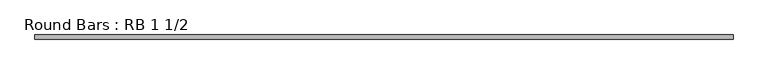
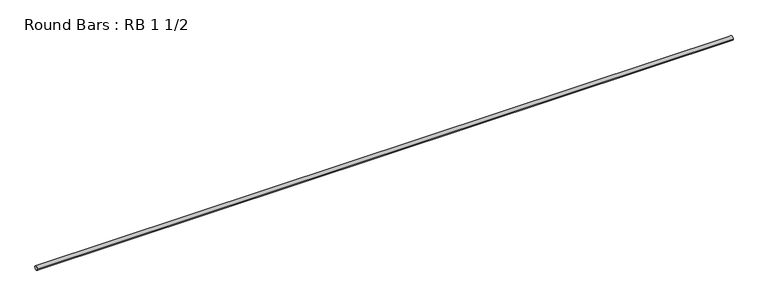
"""IFC4 building model written with IfcOpenShell, lengths in millimetres: member geometry, Round Bars : RB 1 1/2."""

from ifc_helpers import new_model, si_unit, point, frame, origin, origin_2d, place, context, project, spatial, circle_curve, trimmed, segment, composite_curve, outline, extrude, source, transform, mapped, element, save


def round_bars_rb_1_1_2_cdd3f9c2(model_context):
    return source(origin(), model_context, "Body", "SweptSolid", [
        extrude(outline(composite_curve([segment(trimmed(circle_curve(origin_2d(), 19.05), [point((19.05, 0.0))], [point((-19.05, 0.0))], False, "CARTESIAN"), True, "CONTINUOUS"), segment(trimmed(circle_curve(origin_2d(), 19.05), [point((-19.05, 0.0))], [point((19.05, 0.0))], False, "CARTESIAN"), True, "CONTINUOUS")], self_intersect=False)), frame((-3117.488011, 0.0, 0.0), z_axis=(1.0, 0.0, 0.0), x_axis=(0.0, 1.0, 0.0)), (0.0, 0.0, 1.0), 6443.1026913),
    ])


if __name__ == "__main__":
    model = new_model("IFC4")
    model_context = context("Model", 3, world=origin())
    ifc_project = project(units=[si_unit("LENGTHUNIT", "METRE", prefix="MILLI")], contexts=[model_context])
    site = spatial("IfcSite", under=ifc_project)
    building = spatial("IfcBuilding", under=site)
    placement = place(None, origin())
    round_bars_rb_1_1_2_shape = round_bars_rb_1_1_2_cdd3f9c2(model_context)
    element("IfcMember", 1, ObjectType="Round Bars : RB 1 1/2", at=placement, inside=building, context=model_context, shape_type="MappedRepresentation", body=[
        mapped(round_bars_rb_1_1_2_shape, transform((0.0, 0.0, 0.0), x_axis=(1.0, 0.0, 0.0), y_axis=(0.0, 1.0, 0.0), z_axis=(0.0, 0.0, 1.0))),
    ])
    save(model, "model.ifc")
